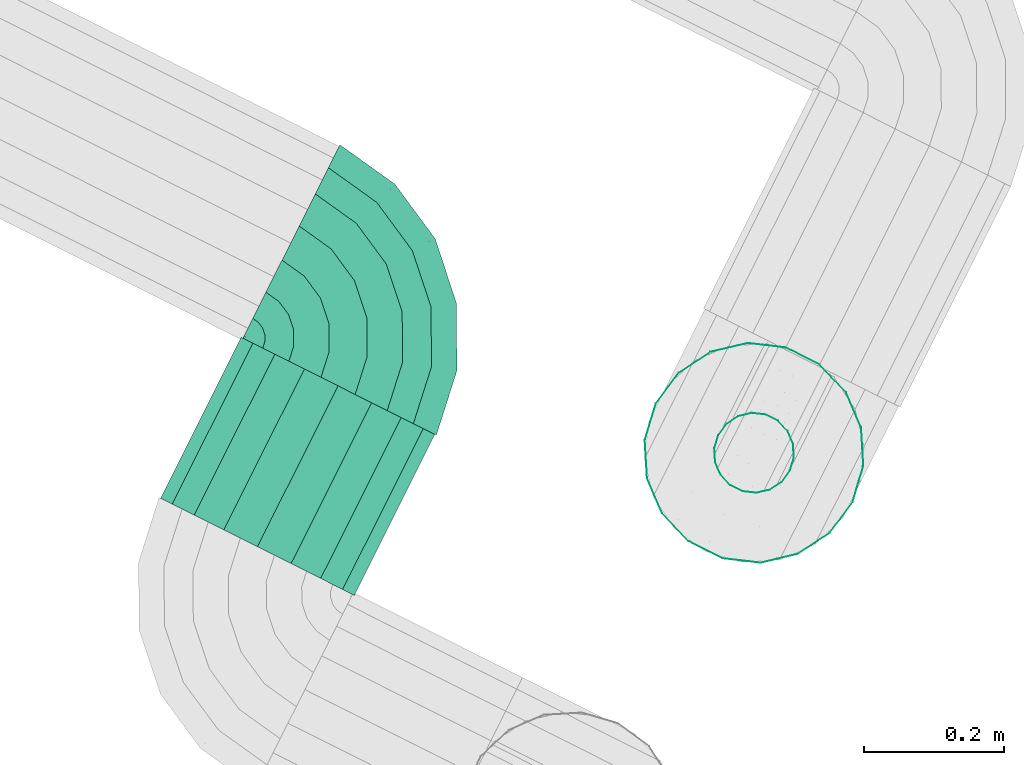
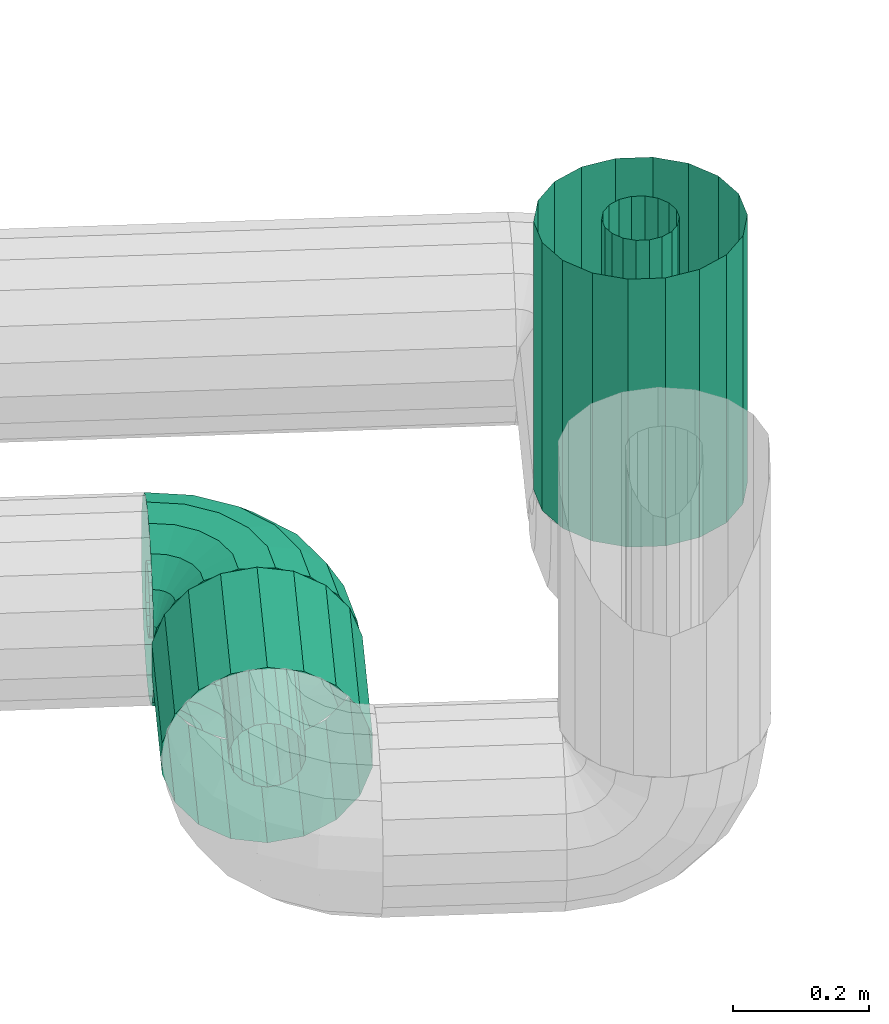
# One storey, part 36 of 206: 3 flow segments.
"""IFC2X3 building model written with IfcOpenShell, lengths in metres."""

import ifcopenshell
import ifcopenshell.guid

model = None  # the IFC model being written
_history = None  # IfcOwnerHistory: only IFC2X3 demands one
_inside = {}  # id of a spatial element -> (the spatial element, [elements in it])
_under = {}  # id of a project, library or spatial element -> (it, [spatial elements below it])
_declared = {}  # id of a project -> (the project, [libraries it declares])
_typed = {}  # id of a type object -> (the type object, [elements of that type])
_made_of = {}  # id of a material, layer set ... -> (it, [elements and type objects made of it])


def new_model(schema):
    """Start an empty IFC model of exactly this schema.

    Asked for "IFC4X3", IfcOpenShell would pick the latest addendum, in which some entities
    have other attributes; the version numbers below select the first issue.
    IFC2X3 requires an IfcOwnerHistory on every rooted entity: one is made here for all.
    """
    global model, _history
    if schema == "IFC4X3":
        model = ifcopenshell.file(schema_version=(4, 3, 0, 0))
    else:
        model = ifcopenshell.file(schema=schema)
    _inside.clear()
    _under.clear()
    _declared.clear()
    _typed.clear()
    _made_of.clear()
    _history = None
    if model.schema == "IFC2X3":
        org = make("IfcOrganization", Name="unknown")
        user = make(
            "IfcPersonAndOrganization",
            ThePerson=make("IfcPerson", FamilyName="unknown"),
            TheOrganization=org,
        )
        app = make(
            "IfcApplication",
            ApplicationDeveloper=org,
            Version="unknown",
            ApplicationFullName="unknown",
            ApplicationIdentifier="unknown",
        )
        _history = make(
            "IfcOwnerHistory",
            OwningUser=user,
            OwningApplication=app,
            ChangeAction="ADDED",
            CreationDate=0,
        )
    return model


def make(cls, **values):
    """One entity of the class cls with the attributes given. An attribute that is None is left unset."""
    return model.create_entity(
        cls, **{name: value for name, value in values.items() if value is not None}
    )


def rooted(cls, **values):
    """An entity with a GlobalId (a new one), such as an element, a storey or a relation."""
    return make(cls, GlobalId=ifcopenshell.guid.new(), OwnerHistory=_history, **values)


def si_unit(unit_type, name, prefix=None):
    """IfcSIUnit, for example si_unit("LENGTHUNIT", "METRE", prefix="MILLI")."""
    return make("IfcSIUnit", UnitType=unit_type, Prefix=prefix, Name=name)


def derived_unit(unit_type, elements):
    """IfcDerivedUnit: a product of units, each with its exponent."""
    return make(
        "IfcDerivedUnit",
        Elements=[
            make("IfcDerivedUnitElement", Unit=unit, Exponent=power)
            for unit, power in elements
        ],
        UnitType=unit_type,
    )


def assignment(units):
    """IfcUnitAssignment: the units of a project."""
    return None if units is None else make("IfcUnitAssignment", Units=units)


def point(xyz):
    """IfcCartesianPoint."""
    return None if xyz is None else make("IfcCartesianPoint", Coordinates=xyz)


def direction(xyz):
    """IfcDirection."""
    return None if xyz is None else make("IfcDirection", DirectionRatios=xyz)


def frame(location, z_axis=None, x_axis=None):
    """IfcAxis2Placement3D, a coordinate frame: its origin and axes. An axis left out is left unset."""
    return make(
        "IfcAxis2Placement3D",
        Location=point(location),
        Axis=direction(z_axis),
        RefDirection=direction(x_axis),
    )


def origin():
    """The frame at (0, 0, 0) with its axes left unset."""
    return frame((0.0, 0.0, 0.0))


def place(relative_to, where):
    """IfcLocalPlacement: puts the frame where relative to a parent placement (None: the world)."""
    return make(
        "IfcLocalPlacement", PlacementRelTo=relative_to, RelativePlacement=where
    )


def context(
    kind, dimensions, precision=None, world=None, true_north=None, identifier=None
):
    """IfcGeometricRepresentationContext, for example the 3D "Model" context."""
    return make(
        "IfcGeometricRepresentationContext",
        ContextIdentifier=identifier,
        ContextType=kind,
        CoordinateSpaceDimension=dimensions,
        Precision=precision,
        WorldCoordinateSystem=world,
        TrueNorth=true_north,
    )


def subcontext(parent, identifier, kind, view, scale=None):
    """IfcGeometricRepresentationSubContext, for example "Body" below "Model"."""
    return make(
        "IfcGeometricRepresentationSubContext",
        ContextIdentifier=identifier,
        ContextType=kind,
        ParentContext=parent,
        TargetScale=scale,
        TargetView=view,
    )


def project(units=None, contexts=None):
    """IfcProject with its units and contexts."""
    return rooted(
        "IfcProject",
        Name="project",
        RepresentationContexts=contexts,
        UnitsInContext=assignment(units),
    )


def spatial(cls, under=None, at=None, **own):
    """A site, building, storey or space (cls), placed at a placement, below another one or the project."""
    s = rooted(cls, ObjectPlacement=at, **own)
    if under is not None:
        _under.setdefault(under.id(), (under, []))[1].append(s)
    return s


def faces_of(points, faces, orient=None, outer=None):
    """IfcFace entities. A face is a list of loops; a loop is a list of indices into points, from 0.

    orient and outer hold one flag for each loop. By default every Orientation is true, the
    first loop of a face is its IfcFaceOuterBound and the others are IfcFaceBound.
    """
    made = []
    for i, loops in enumerate(faces):
        bounds = []
        for j, loop in enumerate(loops):
            is_outer = j == 0 if outer is None else outer[i][j]
            bounds.append(
                make(
                    "IfcFaceOuterBound" if is_outer else "IfcFaceBound",
                    Bound=make("IfcPolyLoop", Polygon=[points[k] for k in loop]),
                    Orientation=True if orient is None else orient[i][j],
                )
            )
        made.append(make("IfcFace", Bounds=bounds))
    return made


def face_set(faces, orient=None, outer=None):
    """The faces of one IfcConnectedFaceSet. surface_model builds it on its shared points."""
    return ("IfcConnectedFaceSet", faces, orient, outer)


def surface_model(cls, points, shells):
    """IfcFaceBasedSurfaceModel or IfcShellBasedSurfaceModel (cls): surfaces that need not close."""
    shared = [point(p) for p in points]
    made = [make(c, CfsFaces=faces_of(shared, fs, o, b)) for c, fs, o, b in shells]
    if cls == "IfcFaceBasedSurfaceModel":
        return make(cls, FbsmFaces=made)
    return make(cls, SbsmBoundary=made)


def shape(context_of_items, identifier, shape_type, items):
    """IfcShapeRepresentation: the items that make up one representation, for example the "Body"."""
    return make(
        "IfcShapeRepresentation",
        ContextOfItems=context_of_items,
        RepresentationIdentifier=identifier,
        RepresentationType=shape_type,
        Items=items,
    )


def source(mapping_origin, context_of_items, identifier, shape_type, items):
    """IfcRepresentationMap: a shape defined once, which mapped items show again and again."""
    return make(
        "IfcRepresentationMap",
        MappingOrigin=mapping_origin,
        MappedRepresentation=shape(context_of_items, identifier, shape_type, items),
    )


def transform(
    local_origin,
    x_axis=None,
    y_axis=None,
    z_axis=None,
    scale=None,
    scale2=None,
    scale3=None,
    uniform=True,
):
    """IfcCartesianTransformationOperator3D, or its non-uniform kind. x_axis, y_axis, z_axis: its Axis1, 2, 3."""
    if uniform:
        return make(
            "IfcCartesianTransformationOperator3D",
            Axis1=direction(x_axis),
            Axis2=direction(y_axis),
            LocalOrigin=point(local_origin),
            Scale=scale,
            Axis3=direction(z_axis),
        )
    return make(
        "IfcCartesianTransformationOperator3DnonUniform",
        Axis1=direction(x_axis),
        Axis2=direction(y_axis),
        LocalOrigin=point(local_origin),
        Scale=scale,
        Axis3=direction(z_axis),
        Scale2=scale2,
        Scale3=scale3,
    )


def mapped(mapping_source, mapping_target):
    """IfcMappedItem: shows the shape of a source again, moved by a transform."""
    return make(
        "IfcMappedItem", MappingSource=mapping_source, MappingTarget=mapping_target
    )


def material(Name=None, Category=None):
    """IfcMaterial."""
    return make("IfcMaterial", Name=Name, Category=Category)


def made_of(thing, what):
    """Note that an element or type object is made of a material, layer set ...; save() writes the relation."""
    if what is not None:
        _made_of.setdefault(what.id(), (what, []))[1].append(thing)
    return thing


def type_object(cls, material=None, **own):
    """A type object (cls), such as IfcWallType, which elements share."""
    return made_of(rooted(cls, **own), material)


def type_shapes(of_type, sources):
    """Give a type object the sources (RepresentationMaps) that its elements show as mapped items."""
    of_type.RepresentationMaps = sources


def element(
    cls,
    number,
    at=None,
    inside=None,
    cuts=None,
    type_object=None,
    material=None,
    context=None,
    identifier="Body",
    shape_type=None,
    held_by="IfcProductDefinitionShape",
    body=None,
    shapes=None,
    **own,
):
    """One element of the class cls, such as IfcWall. Its Tag is "e" and its number.

    at: its placement. inside: the storey or other place that contains it. cuts: it is an
    opening in that element (IfcRelVoidsElement). A single representation is given by context,
    identifier, shape_type and body (its items); several are given by shapes. held_by: the class
    of the entity that holds the representations. save() writes the other relations.
    """
    e = rooted(cls, Tag="e%d" % number, ObjectPlacement=at, **own)
    if body is not None:
        shapes = [shape(context, identifier, shape_type, body)]
    if shapes is not None:
        e.Representation = make(held_by, Representations=shapes)
    if inside is not None:
        _inside.setdefault(inside.id(), (inside, []))[1].append(e)
    if cuts is not None:
        rooted(
            "IfcRelVoidsElement", RelatingBuildingElement=cuts, RelatedOpeningElement=e
        )
    if type_object is not None:
        _typed.setdefault(type_object.id(), (type_object, []))[1].append(e)
    return made_of(e, material)


def aggregate(whole, parts):
    """IfcRelAggregates: a whole, such as a stair, and the parts it consists of."""
    return rooted("IfcRelAggregates", RelatingObject=whole, RelatedObjects=parts)


def save(model, path):
    """Write the relations noted so far, then the file.

    IfcRelAggregates (storeys below a building ...), IfcRelContainedInSpatialStructure (elements
    in a storey), IfcRelDefinesByType, IfcRelAssociatesMaterial and IfcRelDeclares: one each for
    every whole, place, type object, material and project.
    """
    for whole, parts in _under.values():
        aggregate(whole, parts)
    for where, things in _inside.values():
        rooted(
            "IfcRelContainedInSpatialStructure",
            RelatedElements=things,
            RelatingStructure=where,
        )
    for kind, things in _typed.values():
        rooted("IfcRelDefinesByType", RelatedObjects=things, RelatingType=kind)
    for what, things in _made_of.values():
        rooted("IfcRelAssociatesMaterial", RelatedObjects=things, RelatingMaterial=what)
    for by, libraries in _declared.values():
        rooted("IfcRelDeclares", RelatingContext=by, RelatedDefinitions=libraries)
    model.write(path)


model = new_model("IFC2X3")

# Units and contexts
model_context = context("Model", 3, precision=5.2338327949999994e-05, world=origin(), true_north=direction((0.0, 1.0)))
body_context = subcontext(model_context, "Body", "Model", "MODEL_VIEW")
ifc_project = project(units=[si_unit("LENGTHUNIT", "METRE"), si_unit("AREAUNIT", "SQUARE_METRE"), si_unit("VOLUMEUNIT", "CUBIC_METRE"), si_unit("MASSUNIT", "GRAM", prefix="KILO"), si_unit("PLANEANGLEUNIT", "RADIAN"), derived_unit("THERMALTRANSMITTANCEUNIT", [(si_unit("MASSUNIT", "GRAM", prefix="KILO"), 1), (si_unit("THERMODYNAMICTEMPERATUREUNIT", "KELVIN"), -1), (si_unit("TIMEUNIT", "SECOND"), -3)])], contexts=[model_context])

# Site, building, storey
site_placement = place(None, frame((0.0, 0.0, 0.0), z_axis=(0.0, 0.0, 1.0), x_axis=(0.8939966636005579, -0.4480736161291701, 0.0)))
site = spatial("IfcSite", under=ifc_project, at=site_placement, Name="Default", CompositionType="ELEMENT")
building_placement = place(site_placement, origin())
building = spatial("IfcBuilding", under=site, at=building_placement, CompositionType="ELEMENT")
storey_placement = place(building_placement, origin())
storey = spatial("IfcBuildingStorey", under=building, at=storey_placement, Name="Erdgeschoss", CompositionType="ELEMENT", Elevation=0.0)

# Flow segments
ifc_material_1 = material(Name="IfcSurfaceStyle #9317")
distribution_element_type_1 = type_object("IfcDistributionElementType", Name="Rohrbogen 292641:Rohrbogen 292641", material=ifc_material_1)
shared_shape_1 = source(origin(), body_context, "Body", "SurfaceModel", [
    surface_model("IfcFaceBasedSurfaceModel", [(16.96455985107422, 7.374121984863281, 2.317798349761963), (16.899928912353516, 7.384358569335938, 2.317798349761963), (16.96349479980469, 7.370843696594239, 2.3373448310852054), (16.899928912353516, 7.380911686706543, 2.3373448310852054), (17.02286326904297, 7.34441449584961, 2.317798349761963), (17.020837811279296, 7.34162571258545, 2.3373448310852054), (17.06913486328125, 7.2981434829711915, 2.317798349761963), (17.066345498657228, 7.2961180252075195, 2.3373448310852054), (17.098842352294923, 7.239839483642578, 2.317798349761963), (17.095563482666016, 7.238774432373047, 2.3373448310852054), (17.109078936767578, 7.175208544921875, 2.317798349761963), (17.10563147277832, 7.175208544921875, 2.3373448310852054), (16.899928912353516, 7.370987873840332, 2.354533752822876), (16.960427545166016, 7.361405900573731, 2.354533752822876), (17.015004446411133, 7.333597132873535, 2.354533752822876), (17.058316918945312, 7.290284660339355, 2.354533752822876), (17.08612568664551, 7.235707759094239, 2.354533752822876), (17.09570765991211, 7.175208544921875, 2.354533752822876), (16.955728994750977, 7.346945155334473, 2.3672916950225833), (16.899928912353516, 7.355783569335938, 2.3672916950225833), (17.006067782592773, 7.321296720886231, 2.3672916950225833), (17.046016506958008, 7.281347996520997, 2.3672916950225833), (17.07166494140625, 7.2310092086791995, 2.3672916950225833), (17.080503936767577, 7.175208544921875, 2.3672916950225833), (16.899928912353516, 7.337132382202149, 2.3740802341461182), (16.949965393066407, 7.329207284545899, 2.3740802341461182), (16.995104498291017, 7.306207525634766, 2.3740802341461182), (17.03092789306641, 7.270384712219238, 2.3740802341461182), (17.05392765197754, 7.225245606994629, 2.3740802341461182), (17.06185274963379, 7.175208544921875, 2.3740802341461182), (16.94383204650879, 7.310330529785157, 2.3740802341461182), (16.899928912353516, 7.317284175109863, 2.3740802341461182), (16.983438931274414, 7.290150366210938, 2.3740802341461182), (17.014870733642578, 7.258718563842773, 2.3740802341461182), (17.0350508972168, 7.219112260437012, 2.3740802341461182), (17.042003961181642, 7.175208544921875, 2.3740802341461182), (16.899928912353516, 7.298633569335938, 2.3672916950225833), (16.93806844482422, 7.292592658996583, 2.3672916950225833), (16.972475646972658, 7.275061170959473, 2.3672916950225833), (16.999780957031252, 7.247755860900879, 2.3672916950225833), (17.01731244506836, 7.213348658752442, 2.3672916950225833), (17.023353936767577, 7.175208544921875, 2.3672916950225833), (16.933369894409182, 7.2781324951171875, 2.354533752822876), (16.899928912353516, 7.28342868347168, 2.354533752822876), (16.963538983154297, 7.262760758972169, 2.354533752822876), (16.987480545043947, 7.238818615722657, 2.354533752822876), (17.002852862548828, 7.208650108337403, 2.354533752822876), (17.00814905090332, 7.175208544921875, 2.354533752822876), (16.930303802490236, 7.268694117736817, 2.3373448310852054), (16.899928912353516, 7.2735048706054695, 2.3373448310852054), (16.957705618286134, 7.254732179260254, 2.3373448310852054), (16.979451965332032, 7.232985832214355, 2.3373448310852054), (16.993413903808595, 7.205583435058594, 2.3373448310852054), (16.99822523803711, 7.175208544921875, 2.3373448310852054), (16.899928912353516, 7.270058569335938, 2.317798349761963), (16.929238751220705, 7.2654158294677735, 2.317798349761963), (16.955680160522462, 7.251943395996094, 2.317798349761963), (16.976663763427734, 7.230959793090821, 2.317798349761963), (16.990136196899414, 7.204518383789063, 2.317798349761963), (16.994778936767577, 7.175208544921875, 2.317798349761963), (16.899928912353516, 7.2735048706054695, 2.298252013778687), (16.930303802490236, 7.268694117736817, 2.298252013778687), (16.957705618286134, 7.254732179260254, 2.298252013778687), (16.979451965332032, 7.232985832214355, 2.298252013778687), (16.993413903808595, 7.205583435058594, 2.298252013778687), (16.99822523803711, 7.175208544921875, 2.298252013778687), (16.899928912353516, 7.28342868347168, 2.2810630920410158), (16.933369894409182, 7.2781324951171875, 2.2810630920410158), (16.963538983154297, 7.262760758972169, 2.2810630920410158), (16.987480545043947, 7.238818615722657, 2.2810630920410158), (17.002852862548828, 7.208650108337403, 2.2810630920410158), (17.00814905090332, 7.175208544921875, 2.2810630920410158), (16.899928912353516, 7.298633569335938, 2.268305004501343), (16.93806844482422, 7.292592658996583, 2.268305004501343), (16.972475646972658, 7.275061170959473, 2.268305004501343), (16.999780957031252, 7.247755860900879, 2.268305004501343), (17.01731244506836, 7.213348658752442, 2.268305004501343), (17.023353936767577, 7.175208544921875, 2.268305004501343), (16.899928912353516, 7.317284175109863, 2.2615166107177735), (16.94383204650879, 7.310330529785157, 2.2615166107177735), (16.983438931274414, 7.290150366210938, 2.2615166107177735), (17.014870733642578, 7.258718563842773, 2.2615166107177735), (17.0350508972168, 7.219112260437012, 2.2615166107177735), (17.042003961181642, 7.175208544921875, 2.2615166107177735), (16.899928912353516, 7.337132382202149, 2.2615166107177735), (16.949965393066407, 7.329207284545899, 2.2615166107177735), (16.995104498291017, 7.306207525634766, 2.2615166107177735), (17.03092789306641, 7.270384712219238, 2.2615166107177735), (17.05392765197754, 7.225245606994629, 2.2615166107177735), (17.06185274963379, 7.175208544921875, 2.2615166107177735), (16.955728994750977, 7.346945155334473, 2.268305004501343), (16.899928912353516, 7.355783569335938, 2.268305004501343), (17.006067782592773, 7.321296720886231, 2.268305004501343), (17.046016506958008, 7.281347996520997, 2.268305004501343), (17.07166494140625, 7.2310092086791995, 2.268305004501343), (17.080503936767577, 7.175208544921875, 2.268305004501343), (16.899928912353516, 7.370987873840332, 2.2810630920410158), (16.960427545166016, 7.361405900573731, 2.2810630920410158), (17.015004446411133, 7.333597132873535, 2.2810630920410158), (17.058316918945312, 7.290284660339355, 2.2810630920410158), (17.08612568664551, 7.235707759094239, 2.2810630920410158), (17.09570765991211, 7.175208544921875, 2.2810630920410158), (16.96349479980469, 7.370843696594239, 2.298252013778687), (16.899928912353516, 7.380911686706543, 2.298252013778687), (17.020837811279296, 7.34162571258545, 2.298252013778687), (17.066345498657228, 7.2961180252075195, 2.298252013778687), (16.99546145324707, 7.469227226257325, 2.317798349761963), (16.899928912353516, 7.484358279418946, 2.317798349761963), (16.899928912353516, 7.4748809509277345, 2.3715468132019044), (16.99253256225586, 7.460213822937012, 2.3715468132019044), (17.081642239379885, 7.425315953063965, 2.317798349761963), (17.076071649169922, 7.417648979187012, 2.3715468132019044), (17.150035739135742, 7.356922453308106, 2.317798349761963), (17.14236876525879, 7.351351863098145, 2.3715468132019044), (17.1939470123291, 7.27074108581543, 2.317798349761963), (17.18493360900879, 7.267812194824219, 2.3715468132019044), (17.209078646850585, 7.175208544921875, 2.317798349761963), (17.199601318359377, 7.175208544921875, 2.3715468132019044), (16.984099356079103, 7.434260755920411, 2.4188125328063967), (16.899928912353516, 7.447592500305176, 2.4188125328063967), (17.060031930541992, 7.395571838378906, 2.4188125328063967), (17.120292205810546, 7.335311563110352, 2.4188125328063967), (17.15898054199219, 7.259379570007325, 2.4188125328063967), (17.172312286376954, 7.175208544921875, 2.4188125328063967), (16.971180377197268, 7.394498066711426, 2.453894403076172), (16.899928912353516, 7.405783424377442, 2.453894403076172), (17.035456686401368, 7.36174774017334, 2.453894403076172), (17.08646752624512, 7.31073690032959, 2.453894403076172), (17.119217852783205, 7.2464600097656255, 2.453894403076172), (17.13050321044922, 7.175208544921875, 2.453894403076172), (16.899928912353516, 7.3544970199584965, 2.472560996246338), (16.95533134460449, 7.345721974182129, 2.472560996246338), (17.00531201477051, 7.320256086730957, 2.472560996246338), (17.044975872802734, 7.280591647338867, 2.472560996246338), (17.070441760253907, 7.230611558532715, 2.472560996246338), (17.079216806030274, 7.175208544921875, 2.472560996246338), (16.938466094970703, 7.293815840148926, 2.472560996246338), (16.899928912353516, 7.299919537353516, 2.472560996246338), (16.973231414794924, 7.276101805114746, 2.472560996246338), (17.000821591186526, 7.248511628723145, 2.472560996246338), (17.018535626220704, 7.213746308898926, 2.472560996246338), (17.024639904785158, 7.175208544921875, 2.472560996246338), (16.899928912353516, 7.248633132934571, 2.453894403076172), (16.922618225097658, 7.2450397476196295, 2.453894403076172), (16.943086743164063, 7.234610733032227, 2.453894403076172), (16.95932993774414, 7.218366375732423, 2.453894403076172), (16.969759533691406, 7.197897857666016, 2.453894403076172), (16.973353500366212, 7.175208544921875, 2.453894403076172), (16.909698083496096, 7.205277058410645, 2.4188125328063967), (16.899928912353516, 7.206824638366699, 2.4188125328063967), (16.918511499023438, 7.2007866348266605, 2.4188125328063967), (16.92550642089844, 7.19379171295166, 2.4188125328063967), (16.929996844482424, 7.184978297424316, 2.4188125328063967), (16.931544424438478, 7.175208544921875, 2.4188125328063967), (16.899928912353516, 7.1795356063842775, 2.3715468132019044), (16.901266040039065, 7.179323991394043, 2.3715468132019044), (16.90247178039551, 7.178709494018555, 2.3715468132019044), (16.903429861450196, 7.177751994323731, 2.3715468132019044), (16.90404377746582, 7.176545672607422, 2.3715468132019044), (16.904255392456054, 7.175208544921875, 2.3715468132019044), (16.899928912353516, 7.175207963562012, 2.347004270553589), (16.90067189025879, 7.175207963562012, 2.3476719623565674), (16.899928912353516, 7.175207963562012, 2.288592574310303), (16.90067189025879, 7.175207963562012, 2.2879248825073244), (16.901266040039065, 7.179323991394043, 2.2640498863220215), (16.899928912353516, 7.1795356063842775, 2.2640498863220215), (16.90247178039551, 7.178709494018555, 2.2640498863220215), (16.903429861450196, 7.177751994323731, 2.2640498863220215), (16.90404377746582, 7.176545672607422, 2.2640498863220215), (16.904255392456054, 7.175208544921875, 2.2640498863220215), (16.909698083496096, 7.205277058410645, 2.216784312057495), (16.899928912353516, 7.206824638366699, 2.216784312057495), (16.918511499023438, 7.2007866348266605, 2.216784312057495), (16.92550642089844, 7.19379171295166, 2.216784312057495), (16.929996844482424, 7.184978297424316, 2.216784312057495), (16.931544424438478, 7.175208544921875, 2.216784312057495), (16.899928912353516, 7.248633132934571, 2.1817025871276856), (16.922618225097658, 7.2450397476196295, 2.1817025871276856), (16.943086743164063, 7.234610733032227, 2.1817025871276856), (16.95932993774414, 7.218366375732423, 2.1817025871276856), (16.969759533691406, 7.197897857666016, 2.1817025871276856), (16.973353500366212, 7.175208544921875, 2.1817025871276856), (16.899928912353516, 7.299919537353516, 2.163035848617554), (16.938466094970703, 7.293815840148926, 2.163035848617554), (16.973231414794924, 7.276101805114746, 2.163035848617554), (17.000821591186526, 7.248511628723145, 2.163035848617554), (17.018535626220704, 7.213746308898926, 2.163035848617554), (17.024639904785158, 7.175208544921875, 2.163035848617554), (16.95533134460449, 7.345721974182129, 2.163035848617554), (16.899928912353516, 7.3544970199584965, 2.163035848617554), (17.00531201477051, 7.320256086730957, 2.163035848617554), (17.044975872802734, 7.280591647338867, 2.163035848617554), (17.070441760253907, 7.230611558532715, 2.163035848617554), (17.079216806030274, 7.175208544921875, 2.163035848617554), (16.971180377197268, 7.394498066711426, 2.1817025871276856), (16.899928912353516, 7.405783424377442, 2.1817025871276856), (17.035456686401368, 7.36174774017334, 2.1817025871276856), (17.08646752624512, 7.31073690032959, 2.1817025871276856), (17.119217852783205, 7.2464600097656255, 2.1817025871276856), (17.13050321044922, 7.175208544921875, 2.1817025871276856), (16.899928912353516, 7.447592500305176, 2.216784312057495), (16.984099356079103, 7.434260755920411, 2.216784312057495), (17.060031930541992, 7.395571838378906, 2.216784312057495), (17.120292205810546, 7.335311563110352, 2.216784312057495), (17.15898054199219, 7.259379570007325, 2.216784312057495), (17.172312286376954, 7.175208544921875, 2.216784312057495), (16.899928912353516, 7.4748809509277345, 2.2640498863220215), (16.99253256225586, 7.460213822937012, 2.2640498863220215), (17.076071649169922, 7.417648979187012, 2.2640498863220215), (17.14236876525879, 7.351351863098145, 2.2640498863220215), (17.18493360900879, 7.267812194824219, 2.2640498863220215), (17.199601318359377, 7.175208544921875, 2.2640498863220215), (17.095563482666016, 7.238774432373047, 2.298252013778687), (17.10563147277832, 7.175208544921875, 2.298252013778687)], [face_set([[[0, 1, 2]], [[3, 2, 1]], [[4, 0, 5]], [[2, 5, 0]], [[6, 4, 7]], [[5, 7, 4]], [[8, 6, 7]], [[7, 9, 8]], [[10, 8, 9]], [[9, 11, 10]], [[2, 3, 12]], [[12, 13, 2]], [[5, 2, 14]], [[13, 14, 2]], [[7, 5, 15]], [[14, 15, 5]], [[9, 7, 16]], [[15, 16, 7]], [[11, 9, 17]], [[16, 17, 9]], [[13, 12, 18]], [[19, 18, 12]], [[14, 13, 20]], [[18, 20, 13]], [[15, 14, 21]], [[20, 21, 14]], [[16, 15, 21]], [[21, 22, 16]], [[17, 16, 22]], [[22, 23, 17]], [[18, 19, 24]], [[24, 25, 18]], [[20, 18, 25]], [[25, 26, 20]], [[21, 20, 26]], [[26, 27, 21]], [[22, 21, 27]], [[27, 28, 22]], [[23, 22, 28]], [[28, 29, 23]], [[25, 24, 30]], [[31, 30, 24]], [[26, 25, 32]], [[30, 32, 25]], [[27, 26, 33]], [[32, 33, 26]], [[28, 27, 33]], [[33, 34, 28]], [[29, 28, 35]], [[34, 35, 28]], [[30, 31, 36]], [[36, 37, 30]], [[32, 30, 37]], [[37, 38, 32]], [[33, 32, 38]], [[38, 39, 33]], [[34, 33, 40]], [[39, 40, 33]], [[35, 34, 40]], [[40, 41, 35]], [[37, 36, 42]], [[43, 42, 36]], [[38, 37, 44]], [[42, 44, 37]], [[39, 38, 45]], [[44, 45, 38]], [[40, 39, 46]], [[45, 46, 39]], [[41, 40, 47]], [[46, 47, 40]], [[42, 43, 48]], [[49, 48, 43]], [[44, 42, 50]], [[48, 50, 42]], [[45, 44, 50]], [[50, 51, 45]], [[46, 45, 51]], [[51, 52, 46]], [[47, 46, 52]], [[52, 53, 47]], [[48, 49, 54]], [[54, 55, 48]], [[50, 48, 55]], [[55, 56, 50]], [[51, 50, 56]], [[56, 57, 51]], [[52, 51, 57]], [[57, 58, 52]], [[53, 52, 58]], [[58, 59, 53]], [[55, 54, 60]], [[60, 61, 55]], [[56, 55, 62]], [[61, 62, 55]], [[57, 56, 63]], [[62, 63, 56]], [[58, 57, 64]], [[63, 64, 57]], [[59, 58, 65]], [[64, 65, 58]], [[61, 60, 66]], [[66, 67, 61]], [[62, 61, 67]], [[67, 68, 62]], [[63, 62, 68]], [[68, 69, 63]], [[64, 63, 69]], [[69, 70, 64]], [[65, 64, 71]], [[70, 71, 64]], [[67, 66, 72]], [[72, 73, 67]], [[68, 67, 73]], [[73, 74, 68]], [[69, 68, 75]], [[74, 75, 68]], [[70, 69, 76]], [[75, 76, 69]], [[71, 70, 76]], [[76, 77, 71]], [[73, 72, 78]], [[78, 79, 73]], [[74, 73, 79]], [[79, 80, 74]], [[75, 74, 81]], [[80, 81, 74]], [[76, 75, 82]], [[81, 82, 75]], [[77, 76, 82]], [[82, 83, 77]], [[79, 78, 84]], [[84, 85, 79]], [[80, 79, 85]], [[85, 86, 80]], [[81, 80, 86]], [[86, 87, 81]], [[82, 81, 88]], [[87, 88, 81]], [[83, 82, 88]], [[88, 89, 83]], [[85, 84, 90]], [[91, 90, 84]], [[86, 85, 92]], [[90, 92, 85]], [[87, 86, 93]], [[92, 93, 86]], [[88, 87, 94]], [[93, 94, 87]], [[89, 88, 95]], [[94, 95, 88]], [[90, 91, 96]], [[96, 97, 90]], [[92, 90, 97]], [[97, 98, 92]], [[93, 92, 98]], [[98, 99, 93]], [[94, 93, 100]], [[99, 100, 93]], [[95, 94, 100]], [[100, 101, 95]], [[97, 96, 102]], [[103, 102, 96]], [[98, 97, 104]], [[102, 104, 97]], [[99, 98, 104]], [[104, 105, 99]], [[102, 103, 1]], [[1, 0, 102]], [[104, 102, 0]], [[0, 4, 104]], [[105, 104, 4]], [[4, 6, 105]], [[106, 107, 108]], [[108, 109, 106]], [[110, 106, 111]], [[109, 111, 106]], [[112, 110, 113]], [[111, 113, 110]], [[114, 112, 113]], [[113, 115, 114]], [[116, 114, 117]], [[115, 117, 114]], [[109, 108, 118]], [[119, 118, 108]], [[111, 109, 118]], [[118, 120, 111]], [[113, 111, 121]], [[120, 121, 111]], [[115, 113, 121]], [[121, 122, 115]], [[117, 115, 122]], [[122, 123, 117]], [[118, 119, 124]], [[125, 124, 119]], [[120, 118, 124]], [[124, 126, 120]], [[121, 120, 126]], [[126, 127, 121]], [[122, 121, 127]], [[127, 128, 122]], [[123, 122, 128]], [[128, 129, 123]], [[124, 125, 130]], [[130, 131, 124]], [[126, 124, 131]], [[131, 132, 126]], [[127, 126, 132]], [[132, 133, 127]], [[128, 127, 133]], [[133, 134, 128]], [[129, 128, 135]], [[134, 135, 128]], [[131, 130, 136]], [[137, 136, 130]], [[132, 131, 138]], [[136, 138, 131]], [[133, 132, 138]], [[138, 139, 133]], [[134, 133, 139]], [[139, 140, 134]], [[135, 134, 140]], [[140, 141, 135]], [[136, 137, 142]], [[142, 143, 136]], [[138, 136, 143]], [[143, 144, 138]], [[139, 138, 144]], [[144, 145, 139]], [[140, 139, 145]], [[145, 146, 140]], [[141, 140, 147]], [[146, 147, 140]], [[143, 142, 148]], [[149, 148, 142]], [[144, 143, 150]], [[148, 150, 143]], [[145, 144, 150]], [[150, 151, 145]], [[146, 145, 151]], [[151, 152, 146]], [[147, 146, 152]], [[152, 153, 147]], [[148, 149, 154]], [[154, 155, 148]], [[150, 148, 156]], [[155, 156, 148]], [[151, 150, 156]], [[156, 157, 151]], [[152, 151, 158]], [[157, 158, 151]], [[153, 152, 158]], [[158, 159, 153]], [[160, 155, 161]], [[160, 161, 154]], [[155, 154, 161]], [[156, 155, 160]], [[157, 156, 160]], [[158, 157, 160]], [[159, 158, 160]], [[162, 163, 164]], [[165, 164, 163]], [[163, 162, 165]], [[164, 166, 162]], [[162, 166, 167]], [[167, 168, 162]], [[168, 169, 162]], [[164, 165, 170]], [[171, 170, 165]], [[166, 164, 170]], [[170, 172, 166]], [[167, 166, 173]], [[172, 173, 166]], [[168, 167, 174]], [[173, 174, 167]], [[169, 168, 175]], [[174, 175, 168]], [[170, 171, 176]], [[176, 177, 170]], [[172, 170, 177]], [[177, 178, 172]], [[173, 172, 179]], [[178, 179, 172]], [[174, 173, 180]], [[179, 180, 173]], [[175, 174, 181]], [[180, 181, 174]], [[177, 176, 182]], [[182, 183, 177]], [[178, 177, 184]], [[183, 184, 177]], [[179, 178, 184]], [[184, 185, 179]], [[180, 179, 186]], [[185, 186, 179]], [[181, 180, 187]], [[186, 187, 180]], [[183, 182, 188]], [[189, 188, 182]], [[184, 183, 190]], [[188, 190, 183]], [[185, 184, 191]], [[190, 191, 184]], [[186, 185, 192]], [[191, 192, 185]], [[187, 186, 193]], [[192, 193, 186]], [[188, 189, 194]], [[195, 194, 189]], [[190, 188, 194]], [[194, 196, 190]], [[191, 190, 197]], [[196, 197, 190]], [[192, 191, 198]], [[197, 198, 191]], [[193, 192, 198]], [[198, 199, 193]], [[194, 195, 200]], [[200, 201, 194]], [[196, 194, 202]], [[201, 202, 194]], [[197, 196, 203]], [[202, 203, 196]], [[198, 197, 204]], [[203, 204, 197]], [[199, 198, 205]], [[204, 205, 198]], [[201, 200, 206]], [[206, 207, 201]], [[202, 201, 208]], [[207, 208, 201]], [[203, 202, 208]], [[208, 209, 203]], [[204, 203, 209]], [[209, 210, 204]], [[205, 204, 211]], [[210, 211, 204]], [[207, 206, 106]], [[107, 106, 206]], [[208, 207, 110]], [[106, 110, 207]], [[209, 208, 110]], [[110, 112, 209]], [[210, 209, 114]], [[112, 114, 209]], [[211, 210, 116]], [[114, 116, 210]], [[100, 99, 105]], [[105, 212, 100]], [[101, 100, 213]], [[212, 213, 100]], [[212, 105, 6]], [[6, 8, 212]], [[213, 212, 8]], [[8, 10, 213]]])]),
])
type_shapes(distribution_element_type_1, [shared_shape_1])
flow_segment_1_placement = place(storey_placement, origin())
element("IfcFlowSegment", 1, at=flow_segment_1_placement, inside=storey, type_object=distribution_element_type_1, material=ifc_material_1, Name="Rohrbogen", ObjectType="Rohrbogen", context=body_context, shape_type="MappedRepresentation", body=[
    mapped(shared_shape_1, transform((0.0, 0.0, 0.0), scale=1.0)),
])
ifc_material_2 = material(Name="IfcSurfaceStyle #1741")
distribution_element_type_2 = type_object("IfcDistributionElementType", Name="Stahlrohr nach DIN 2448 293272:Stahlrohr nach DIN 2448 293272", material=ifc_material_2)
shared_shape_2 = source(origin(), body_context, "Body", "SurfaceModel", [
    surface_model("IfcFaceBasedSurfaceModel", [(17.68338244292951, 7.355919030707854, 2.469798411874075), (17.67993587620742, 7.3754654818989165, 2.469798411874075), (17.679935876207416, 7.375465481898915, 2.95), (17.683382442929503, 7.355919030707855, 2.95), (17.670011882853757, 7.392654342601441, 2.469798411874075), (17.67001188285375, 7.392654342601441, 2.95), (17.65480744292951, 7.4054123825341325, 2.469798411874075), (17.65480744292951, 7.405412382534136, 2.95), (17.636156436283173, 7.412200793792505, 2.469798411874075), (17.636156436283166, 7.412200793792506, 2.95), (17.616308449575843, 7.412200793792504, 2.469798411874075), (17.616308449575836, 7.412200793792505, 2.95), (17.597657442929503, 7.405412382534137, 2.469798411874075), (17.597657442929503, 7.405412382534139, 2.95), (17.58245300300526, 7.392654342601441, 2.469798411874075), (17.58245300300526, 7.3926543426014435, 2.95), (17.572529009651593, 7.37546548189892, 2.469798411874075), (17.572529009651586, 7.37546548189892, 2.95), (17.569082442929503, 7.3559190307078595, 2.469798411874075), (17.569082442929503, 7.3559190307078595, 2.95), (17.57252900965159, 7.336372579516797, 2.469798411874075), (17.572529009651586, 7.336372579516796, 2.95), (17.58245300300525, 7.319183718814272, 2.469798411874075), (17.58245300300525, 7.319183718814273, 2.95), (17.597657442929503, 7.306425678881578, 2.469798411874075), (17.5976574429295, 7.306425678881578, 2.95), (17.61630844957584, 7.299637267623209, 2.469798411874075), (17.616308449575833, 7.299637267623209, 2.95), (17.636156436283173, 7.299637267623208, 2.469798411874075), (17.636156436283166, 7.299637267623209, 2.95), (17.654807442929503, 7.306425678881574, 2.469798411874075), (17.654807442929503, 7.306425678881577, 2.95), (17.67001188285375, 7.319183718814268, 2.469798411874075), (17.67001188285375, 7.319183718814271, 2.95), (17.67993587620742, 7.336372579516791, 2.469798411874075), (17.679935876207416, 7.336372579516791, 2.95), (17.783382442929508, 7.35591903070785, 2.469798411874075), (17.773905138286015, 7.409667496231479, 2.469798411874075), (17.77390513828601, 7.40966749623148, 2.95), (17.783382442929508, 7.35591903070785, 2.95), (17.746616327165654, 7.4569331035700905, 2.469798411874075), (17.746616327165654, 7.4569331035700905, 2.95), (17.70480744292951, 7.492014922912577, 2.469798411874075), (17.70480744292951, 7.492014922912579, 2.95), (17.653521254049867, 7.510681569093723, 2.469798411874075), (17.653521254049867, 7.510681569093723, 2.95), (17.598943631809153, 7.510681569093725, 2.469798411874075), (17.598943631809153, 7.510681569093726, 2.95), (17.547657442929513, 7.492014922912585, 2.469798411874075), (17.54765744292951, 7.492014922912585, 2.95), (17.505848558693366, 7.456933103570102, 2.469798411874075), (17.505848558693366, 7.456933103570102, 2.95), (17.478559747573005, 7.40966749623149, 2.469798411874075), (17.478559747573, 7.409667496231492, 2.95), (17.469082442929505, 7.355919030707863, 2.469798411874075), (17.4690824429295, 7.355919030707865, 2.95), (17.478559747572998, 7.302170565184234, 2.469798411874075), (17.478559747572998, 7.302170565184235, 2.95), (17.50584855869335, 7.254904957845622, 2.469798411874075), (17.50584855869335, 7.254904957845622, 2.95), (17.5476574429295, 7.219823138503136, 2.469798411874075), (17.547657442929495, 7.219823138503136, 2.95), (17.59894363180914, 7.201156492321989, 2.469798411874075), (17.59894363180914, 7.2011564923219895, 2.95), (17.653521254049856, 7.201156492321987, 2.469798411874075), (17.653521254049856, 7.201156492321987, 2.95), (17.704807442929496, 7.219823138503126, 2.469798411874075), (17.704807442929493, 7.219823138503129, 2.95), (17.746616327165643, 7.254904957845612, 2.469798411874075), (17.746616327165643, 7.254904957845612, 2.95), (17.773905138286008, 7.30217056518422, 2.469798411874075), (17.773905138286, 7.302170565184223, 2.95)], [face_set([[[0, 1, 2, 3]], [[1, 4, 5, 2]], [[4, 6, 7, 5]], [[6, 8, 9, 7]], [[8, 10, 11, 9]], [[10, 12, 13, 11]], [[12, 14, 15, 13]], [[14, 16, 17, 15]], [[16, 18, 19, 17]], [[18, 20, 21, 19]], [[20, 22, 23, 21]], [[22, 24, 25, 23]], [[24, 26, 27, 25]], [[26, 28, 29, 27]], [[28, 30, 31, 29]], [[30, 32, 33, 31]], [[32, 34, 35, 33]], [[34, 0, 3, 35]], [[36, 37, 38, 39]], [[37, 40, 41, 38]], [[40, 42, 43, 41]], [[42, 44, 45, 43]], [[44, 46, 47, 45]], [[46, 48, 49, 47]], [[48, 50, 51, 49]], [[50, 52, 53, 51]], [[52, 54, 55, 53]], [[54, 56, 57, 55]], [[56, 58, 59, 57]], [[58, 60, 61, 59]], [[60, 62, 63, 61]], [[62, 64, 65, 63]], [[64, 66, 67, 65]], [[66, 68, 69, 67]], [[68, 70, 71, 69]], [[70, 36, 39, 71]]])]),
])
type_shapes(distribution_element_type_2, [shared_shape_2])
flow_segment_2_placement = place(storey_placement, origin())
element("IfcFlowSegment", 2, at=flow_segment_2_placement, inside=storey, type_object=distribution_element_type_2, material=ifc_material_2, Name="Stahlrohr nach DIN 2448", ObjectType="Stahlrohr nach DIN 2448", context=body_context, shape_type="MappedRepresentation", body=[
    mapped(shared_shape_2, transform((0.0, 0.0, 0.0), scale=1.0)),
])
distribution_element_type_3 = type_object("IfcDistributionElementType", Name="Stahlrohr nach DIN 2448 351108:Stahlrohr nach DIN 2448 351108", material=ifc_material_1)
shared_shape_3 = source(origin(), body_context, "Body", "SurfaceModel", [
    surface_model("IfcFaceBasedSurfaceModel", [(17.051928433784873, 7.175208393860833, 2.3749484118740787), (17.03238198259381, 7.175208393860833, 2.371501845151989), (17.032381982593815, 6.918167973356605, 2.37150184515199), (17.051928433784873, 6.918167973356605, 2.3749484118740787), (17.015193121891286, 7.175208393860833, 2.3615778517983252), (17.015193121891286, 6.918167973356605, 2.361577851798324), (17.00243508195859, 7.175208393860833, 2.34637341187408), (17.002435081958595, 6.918167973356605, 2.3463734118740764), (16.99564667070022, 7.175208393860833, 2.3277224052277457), (16.995646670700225, 6.918167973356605, 2.3277224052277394), (16.99564667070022, 7.175208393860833, 2.3078744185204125), (16.995646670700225, 6.918167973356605, 2.3078744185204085), (17.002435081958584, 7.175208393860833, 2.2892234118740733), (17.00243508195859, 6.918167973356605, 2.2892234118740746), (17.01519312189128, 7.175208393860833, 2.2740189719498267), (17.015193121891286, 6.918167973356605, 2.274018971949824), (17.032381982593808, 7.175208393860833, 2.2640949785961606), (17.032381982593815, 6.918167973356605, 2.2640949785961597), (17.051928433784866, 7.175208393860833, 2.260648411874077), (17.051928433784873, 6.918167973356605, 2.2606484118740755), (17.071474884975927, 7.175208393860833, 2.264094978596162), (17.07147488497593, 6.918167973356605, 2.264094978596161), (17.088663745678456, 7.175208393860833, 2.2740189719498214), (17.08866374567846, 6.918167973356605, 2.274018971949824), (17.101421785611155, 7.175208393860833, 2.2892234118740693), (17.101421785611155, 6.918167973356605, 2.289223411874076), (17.108210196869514, 7.175208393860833, 2.3078744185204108), (17.10821019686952, 6.918167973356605, 2.307874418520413), (17.108210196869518, 7.175208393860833, 2.327722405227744), (17.10821019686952, 6.918167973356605, 2.327722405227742), (17.101421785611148, 7.175208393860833, 2.3463734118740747), (17.101421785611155, 6.918167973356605, 2.346373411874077), (17.08866374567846, 7.175208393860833, 2.3615778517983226), (17.08866374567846, 6.918167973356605, 2.3615778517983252), (17.07147488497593, 7.175208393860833, 2.3715018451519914), (17.07147488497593, 6.918167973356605, 2.3715018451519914), (17.051928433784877, 7.175208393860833, 2.474948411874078), (16.99817996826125, 7.175208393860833, 2.465471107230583), (16.998179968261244, 6.918167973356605, 2.465471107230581), (17.051928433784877, 6.918167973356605, 2.4749484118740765), (16.950914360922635, 7.175208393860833, 2.4381822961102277), (16.950914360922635, 6.918167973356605, 2.438182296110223), (16.91583254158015, 7.175208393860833, 2.396373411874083), (16.915832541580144, 6.918167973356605, 2.3963734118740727), (16.897165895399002, 7.175208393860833, 2.34508722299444), (16.897165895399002, 6.918167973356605, 2.345087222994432), (16.897165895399, 7.175208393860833, 2.290509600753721), (16.897165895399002, 6.918167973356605, 2.290509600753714), (16.915832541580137, 7.175208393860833, 2.239223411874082), (16.915832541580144, 6.918167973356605, 2.239223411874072), (16.950914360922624, 7.175208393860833, 2.197414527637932), (16.950914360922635, 6.918167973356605, 2.197414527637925), (16.998179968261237, 7.175208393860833, 2.1701257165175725), (16.998179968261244, 6.918167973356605, 2.1701257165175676), (17.051928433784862, 7.175208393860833, 2.1606484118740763), (17.051928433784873, 6.918167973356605, 2.160648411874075), (17.10567689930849, 7.175208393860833, 2.1701257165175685), (17.105676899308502, 6.918167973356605, 2.17012571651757), (17.152942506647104, 7.175208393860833, 2.1974145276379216), (17.152942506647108, 6.918167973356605, 2.1974145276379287), (17.18802432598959, 7.175208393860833, 2.23922341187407), (17.1880243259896, 6.918167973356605, 2.239223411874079), (17.206690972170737, 7.175208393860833, 2.2905096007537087), (17.206690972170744, 6.918167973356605, 2.2905096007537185), (17.206690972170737, 7.175208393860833, 2.3450872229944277), (17.20669097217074, 6.918167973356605, 2.345087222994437), (17.188024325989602, 7.175208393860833, 2.396373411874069), (17.1880243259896, 6.918167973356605, 2.396373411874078), (17.152942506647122, 7.175208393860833, 2.4381822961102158), (17.15294250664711, 6.918167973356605, 2.438182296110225), (17.105676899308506, 7.175208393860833, 2.465471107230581), (17.105676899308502, 6.918167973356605, 2.4654711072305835)], [face_set([[[0, 1, 2, 3]], [[1, 4, 5, 2]], [[4, 6, 7, 5]], [[6, 8, 9, 7]], [[8, 10, 11, 9]], [[10, 12, 13, 11]], [[12, 14, 15, 13]], [[14, 16, 17, 15]], [[16, 18, 19, 17]], [[18, 20, 21, 19]], [[20, 22, 23, 21]], [[22, 24, 25, 23]], [[24, 26, 27, 25]], [[26, 28, 29, 27]], [[28, 30, 31, 29]], [[30, 32, 33, 31]], [[32, 34, 35, 33]], [[34, 0, 3, 35]], [[36, 37, 38, 39]], [[37, 40, 41, 38]], [[40, 42, 43, 41]], [[42, 44, 45, 43]], [[44, 46, 47, 45]], [[46, 48, 49, 47]], [[48, 50, 51, 49]], [[50, 52, 53, 51]], [[52, 54, 55, 53]], [[54, 56, 57, 55]], [[56, 58, 59, 57]], [[58, 60, 61, 59]], [[60, 62, 63, 61]], [[62, 64, 65, 63]], [[64, 66, 67, 65]], [[66, 68, 69, 67]], [[68, 70, 71, 69]], [[70, 36, 39, 71]]])]),
])
type_shapes(distribution_element_type_3, [shared_shape_3])
flow_segment_3_placement = place(storey_placement, origin())
element("IfcFlowSegment", 3, at=flow_segment_3_placement, inside=storey, type_object=distribution_element_type_3, material=ifc_material_1, Name="Stahlrohr nach DIN 2448", ObjectType="Stahlrohr nach DIN 2448", context=body_context, shape_type="MappedRepresentation", body=[
    mapped(shared_shape_3, transform((0.0, 0.0, 0.0), scale=1.0)),
])

save(model, "model.ifc")
